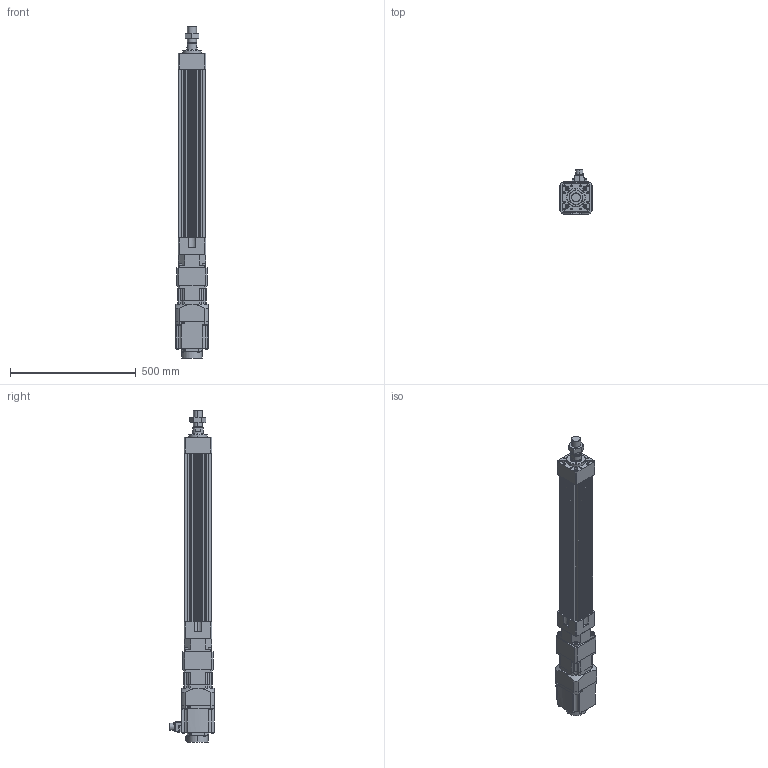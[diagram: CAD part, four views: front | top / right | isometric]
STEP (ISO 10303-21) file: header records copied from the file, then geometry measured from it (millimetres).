
FILE_DESCRIPTION (( 'STEP AP203' ), '1' );
FILE_NAME ('HES110NS(HS)-S500-W015G00-M.STEP', '2023-01-27T10:55:41', ( 'tms' ), ( '' ), 'SwSTEP 2.0', 'SolidWorks 2013', '' );
FILE_SCHEMA (( 'CONFIG_CONTROL_DESIGN' ));
Length unit declared in the file: millimetre
Products named in the file (8): HG-SR152; HES110-S500-G120; HES110 ROD M ST500; HES110NS(HS)-S500-W015G00-M; M36X1.5P; AB1151; P0401400706; AB115-003[HG-SR152]
Assembly tree (7 placements, depth 3):
  HES110NS(HS)-S500-W015G00-M
    HES110-S500-G120
    HES110 ROD M ST500
    M36X1.5P
    AB115-003[HG-SR152]
      AB1151
      P0401400706
    HG-SR152
Bounding box: 130 x 177.49 x 1321.5 mm (x, y, z)
Volume: 8387894.5 mm3; surface area: 1182544.7 mm2
Topology: 4 solids, 15 shells, 1202 faces, 3026 edges, 1951 vertices
Faces by surface type: plane 551, cylinder 537, cone 102, bspline 8, torus 4
Entity records: 37654 total; most frequent: CARTESIAN_POINT 7134, DIRECTION 6533, ORIENTED_EDGE 5960, EDGE_CURVE 2990, AXIS2_PLACEMENT_3D 2410, VERTEX_POINT 1951, VECTOR 1713, LINE 1713
